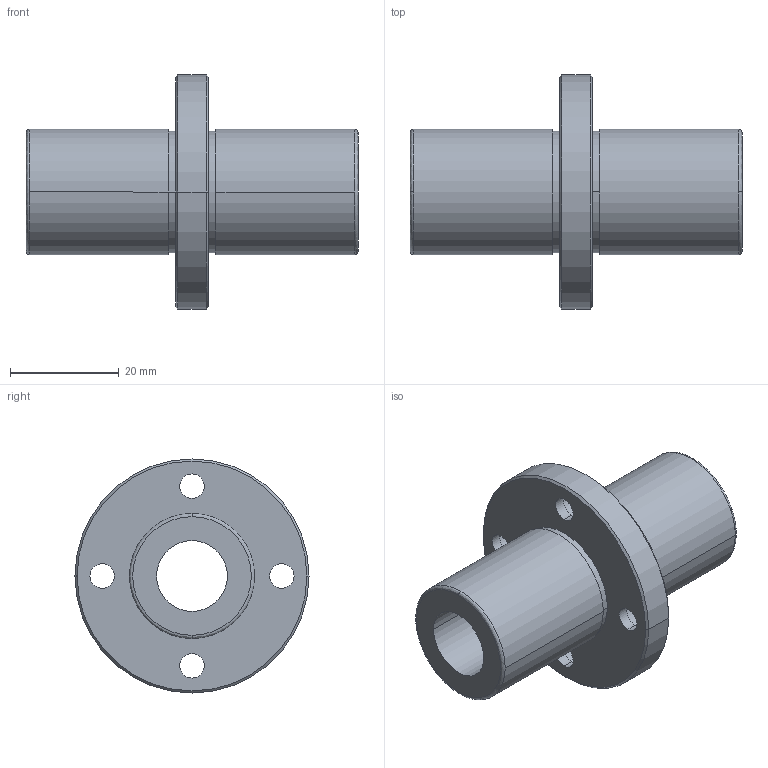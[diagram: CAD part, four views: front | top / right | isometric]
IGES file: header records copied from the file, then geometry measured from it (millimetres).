
Start section: 3D InterOp IGES (Version 21 0 1), Spatial Corp. Copyright (c) 1999-2007.
Global section: file name: NFCD-13VLUU.igs; native system: Spatial Corp.; preprocessor: 3D InterOp GENERIC/IGES 3.0; author: Noname; organization: Noname; date: 20220308.131931; units: millimetre
Bounding box: 61 x 43 x 43 mm (x, y, z)
Surface area: 10273.7 mm2 (no closed solid volume)
Topology: 0 solids, 0 shells, 46 faces, 210 edges, 210 vertices
Faces by surface type: revolution 36, extrusion 10
